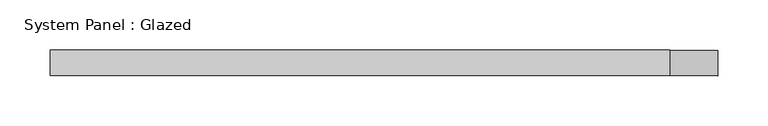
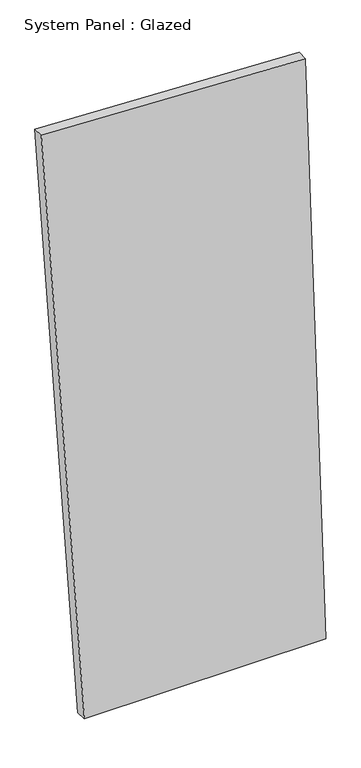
"""IFC4 building model written with IfcOpenShell, lengths in millimetres: plate geometry, System Panel : Glazed."""

from ifc_helpers import new_model, si_unit, frame, origin, place, context, project, spatial, polyline, outline, extrude, source, transform, mapped, element, save


def system_panel_glazed_1bf29829(model_context):
    return source(origin(), model_context, "Body", "SweptSolid", [
        extrude(outline(polyline([(0.0, -231.3014333), (0.0, 331.6162293), (1445.5275569, 283.8320057), (1471.6381866, -331.6162293), (0.0, -231.3014333)])), frame((0.0, -44.45, 0.0), z_axis=(0.0, 1.0, 0.0), x_axis=(0.0, 0.0, 1.0)), (0.0, 0.0, 1.0), 25.4),
    ])


if __name__ == "__main__":
    model = new_model("IFC4")
    model_context = context("Model", 3, world=origin())
    ifc_project = project(units=[si_unit("LENGTHUNIT", "METRE", prefix="MILLI")], contexts=[model_context])
    site = spatial("IfcSite", under=ifc_project)
    building = spatial("IfcBuilding", under=site)
    placement = place(None, origin())
    system_panel_glazed_shape = system_panel_glazed_1bf29829(model_context)
    element("IfcPlate", 1, ObjectType="System Panel : Glazed", at=placement, inside=building, context=model_context, shape_type="MappedRepresentation", body=[
        mapped(system_panel_glazed_shape, transform((0.0, 0.0, 0.0), x_axis=(1.0, 0.0, 0.0), y_axis=(0.0, 1.0, 0.0), z_axis=(0.0, 0.0, 1.0))),
    ])
    save(model, "model.ifc")
